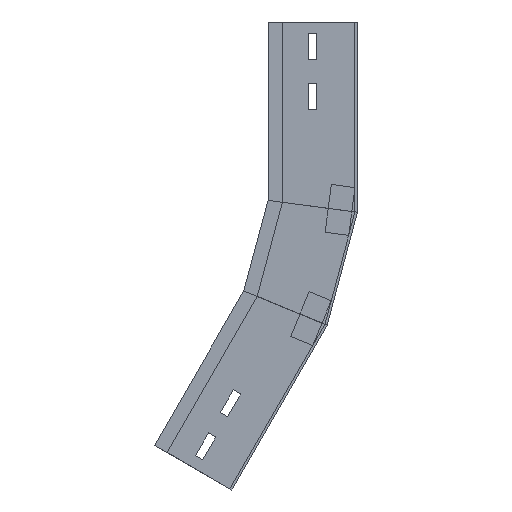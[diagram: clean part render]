
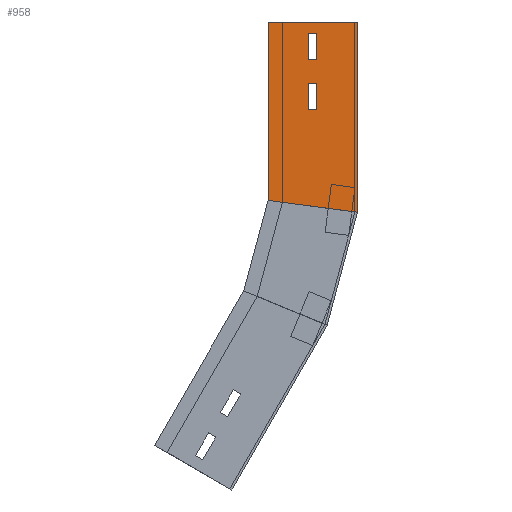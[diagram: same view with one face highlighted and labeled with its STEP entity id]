
A CAD part, left-side view. The second image highlights one B-rep face of the part: STEP entity #958.
In plain terms, the highlighted planar face has unit normal (-1, 0, 0) as drawn and (1, 0, 0) by its records, which use the part's own axes.
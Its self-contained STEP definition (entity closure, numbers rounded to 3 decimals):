
#5 = DIRECTION ( 'NONE',  ( 0., 0.866, 0.5 ) ) ;
#54 = ORIENTED_EDGE ( 'NONE', *, *, #1411, .F. ) ;
#62 = CARTESIAN_POINT ( 'NONE',  ( 0., 124.881, -344.885 ) ) ;
#80 = VERTEX_POINT ( 'NONE', #62 ) ;
#92 = ORIENTED_EDGE ( 'NONE', *, *, #164, .T. ) ;
#93 = VECTOR ( 'NONE', #466, 1000. ) ;
#102 = FACE_BOUND ( 'NONE', #962, .T. ) ;
#111 = ORIENTED_EDGE ( 'NONE', *, *, #1127, .F. ) ;
#127 = VERTEX_POINT ( 'NONE', #648 ) ;
#160 = VERTEX_POINT ( 'NONE', #901 ) ;
#164 = EDGE_CURVE ( 'NONE', #341, #127, #1350, .T. ) ;
#169 = VERTEX_POINT ( 'NONE', #536 ) ;
#183 = EDGE_CURVE ( 'NONE', #370, #80, #637, .T. ) ;
#192 = ORIENTED_EDGE ( 'NONE', *, *, #920, .F. ) ;
#195 = CARTESIAN_POINT ( 'NONE',  ( 0., 124.881, -344.885 ) ) ;
#211 = AXIS2_PLACEMENT_3D ( 'NONE', #1159, #229, #1153 ) ;
#229 = DIRECTION ( 'NONE',  ( -1., 0., 0. ) ) ;
#231 = ORIENTED_EDGE ( 'NONE', *, *, #1262, .F. ) ;
#272 = ORIENTED_EDGE ( 'NONE', *, *, #844, .T. ) ;
#282 = DIRECTION ( 'NONE',  ( 0., -0.866, -0.5 ) ) ;
#341 = VERTEX_POINT ( 'NONE', #473 ) ;
#342 = CARTESIAN_POINT ( 'NONE',  ( 0., 135.881, -363.937 ) ) ;
#356 = VECTOR ( 'NONE', #457, 1000. ) ;
#370 = VERTEX_POINT ( 'NONE', #668 ) ;
#375 = CARTESIAN_POINT ( 'NONE',  ( 0., 115.046, -327.85 ) ) ;
#381 = VECTOR ( 'NONE', #282, 1000. ) ;
#382 = DIRECTION ( 'NONE',  ( 0., 0.866, 0.5 ) ) ;
#411 = EDGE_CURVE ( 'NONE', #1120, #1125, #834, .T. ) ;
#435 = DIRECTION ( 'NONE',  ( 0., -0.866, -0.5 ) ) ;
#442 = LINE ( 'NONE', #1252, #93 ) ;
#455 = VECTOR ( 'NONE', #1206, 1000. ) ;
#457 = DIRECTION ( 'NONE',  ( 0., 0.5, -0.866 ) ) ;
#459 = PLANE ( 'NONE',  #211 ) ;
#464 = CARTESIAN_POINT ( 'NONE',  ( 0., 129.819, -367.437 ) ) ;
#466 = DIRECTION ( 'NONE',  ( 0., 0.5, -0.866 ) ) ;
#473 = CARTESIAN_POINT ( 'NONE',  ( 0., 95.331, -225.702 ) ) ;
#495 = ORIENTED_EDGE ( 'NONE', *, *, #932, .F. ) ;
#531 = LINE ( 'NONE', #195, #587 ) ;
#536 = CARTESIAN_POINT ( 'NONE',  ( 0., 104.046, -308.798 ) ) ;
#551 = VECTOR ( 'NONE', #1111, 1000. ) ;
#587 = VECTOR ( 'NONE', #435, 1000. ) ;
#589 = ORIENTED_EDGE ( 'NONE', *, *, #411, .F. ) ;
#601 = CARTESIAN_POINT ( 'NONE',  ( 0., 25.442, -254.651 ) ) ;
#637 = LINE ( 'NONE', #1339, #768 ) ;
#648 = CARTESIAN_POINT ( 'NONE',  ( 0., 25.442, -254.651 ) ) ;
#659 = CARTESIAN_POINT ( 'NONE',  ( 0., 105.292, -392.955 ) ) ;
#666 = LINE ( 'NONE', #938, #871 ) ;
#668 = CARTESIAN_POINT ( 'NONE',  ( 0., 135.881, -363.937 ) ) ;
#735 = EDGE_CURVE ( 'NONE', #127, #791, #1064, .T. ) ;
#760 = CARTESIAN_POINT ( 'NONE',  ( 0., 115.046, -327.85 ) ) ;
#764 = CARTESIAN_POINT ( 'NONE',  ( 0., 37.296, -249.74 ) ) ;
#768 = VECTOR ( 'NONE', #1102, 1000. ) ;
#791 = VERTEX_POINT ( 'NONE', #659 ) ;
#808 = FACE_BOUND ( 'NONE', #941, .T. ) ;
#812 = VECTOR ( 'NONE', #5, 1000. ) ;
#834 = LINE ( 'NONE', #375, #1384 ) ;
#835 = DIRECTION ( 'NONE',  ( 0., 0.5, -0.866 ) ) ;
#837 = VECTOR ( 'NONE', #988, 1000. ) ;
#844 = EDGE_CURVE ( 'NONE', #791, #1428, #1008, .T. ) ;
#870 = CARTESIAN_POINT ( 'NONE',  ( 0., 104.046, -308.798 ) ) ;
#871 = VECTOR ( 'NONE', #1489, 1000. ) ;
#872 = CARTESIAN_POINT ( 'NONE',  ( 0., 170.244, -355.455 ) ) ;
#894 = CARTESIAN_POINT ( 'NONE',  ( 0., 118.819, -348.385 ) ) ;
#901 = CARTESIAN_POINT ( 'NONE',  ( 0., 129.819, -367.437 ) ) ;
#920 = EDGE_CURVE ( 'NONE', #341, #1428, #442, .T. ) ;
#932 = EDGE_CURVE ( 'NONE', #1125, #169, #666, .T. ) ;
#938 = CARTESIAN_POINT ( 'NONE',  ( 0., 115.046, -327.85 ) ) ;
#941 = EDGE_LOOP ( 'NONE', ( #495, #589, #231, #111 ) ) ;
#958 = ADVANCED_FACE ( 'NONE', ( #102, #808, #1264 ), #459, .F. ) ;
#962 = EDGE_LOOP ( 'NONE', ( #1436, #978, #54, #1331 ) ) ;
#978 = ORIENTED_EDGE ( 'NONE', *, *, #1368, .F. ) ;
#988 = DIRECTION ( 'NONE',  ( 0., 0.5, -0.866 ) ) ;
#997 = ORIENTED_EDGE ( 'NONE', *, *, #735, .T. ) ;
#1008 = LINE ( 'NONE', #1019, #455 ) ;
#1016 = EDGE_LOOP ( 'NONE', ( #92, #997, #272, #192 ) ) ;
#1019 = CARTESIAN_POINT ( 'NONE',  ( 0., 105.292, -392.955 ) ) ;
#1039 = CARTESIAN_POINT ( 'NONE',  ( 0., 108.984, -331.35 ) ) ;
#1060 = CARTESIAN_POINT ( 'NONE',  ( 0., 97.984, -312.298 ) ) ;
#1064 = LINE ( 'NONE', #601, #1418 ) ;
#1102 = DIRECTION ( 'NONE',  ( 0., -0.5, 0.866 ) ) ;
#1111 = DIRECTION ( 'NONE',  ( 0., -0.924, -0.383 ) ) ;
#1120 = VERTEX_POINT ( 'NONE', #1437 ) ;
#1125 = VERTEX_POINT ( 'NONE', #760 ) ;
#1127 = EDGE_CURVE ( 'NONE', #169, #1300, #1456, .T. ) ;
#1149 = LINE ( 'NONE', #464, #837 ) ;
#1153 = DIRECTION ( 'NONE',  ( 0., 0., 1. ) ) ;
#1159 = CARTESIAN_POINT ( 'NONE',  ( 0., 25.442, -254.651 ) ) ;
#1184 = VERTEX_POINT ( 'NONE', #894 ) ;
#1206 = DIRECTION ( 'NONE',  ( 0., 0.866, 0.5 ) ) ;
#1251 = LINE ( 'NONE', #1039, #356 ) ;
#1252 = CARTESIAN_POINT ( 'NONE',  ( 0., 90.394, -217.151 ) ) ;
#1262 = EDGE_CURVE ( 'NONE', #1300, #1120, #1251, .T. ) ;
#1264 = FACE_OUTER_BOUND ( 'NONE', #1016, .T. ) ;
#1300 = VERTEX_POINT ( 'NONE', #1060 ) ;
#1331 = ORIENTED_EDGE ( 'NONE', *, *, #1463, .F. ) ;
#1339 = CARTESIAN_POINT ( 'NONE',  ( 0., 135.881, -363.937 ) ) ;
#1350 = LINE ( 'NONE', #764, #551 ) ;
#1368 = EDGE_CURVE ( 'NONE', #160, #370, #1382, .T. ) ;
#1382 = LINE ( 'NONE', #342, #812 ) ;
#1384 = VECTOR ( 'NONE', #382, 1000. ) ;
#1411 = EDGE_CURVE ( 'NONE', #1184, #160, #1149, .T. ) ;
#1418 = VECTOR ( 'NONE', #835, 1000. ) ;
#1428 = VERTEX_POINT ( 'NONE', #872 ) ;
#1436 = ORIENTED_EDGE ( 'NONE', *, *, #183, .F. ) ;
#1437 = CARTESIAN_POINT ( 'NONE',  ( 0., 108.984, -331.35 ) ) ;
#1456 = LINE ( 'NONE', #870, #381 ) ;
#1463 = EDGE_CURVE ( 'NONE', #80, #1184, #531, .T. ) ;
#1489 = DIRECTION ( 'NONE',  ( 0., -0.5, 0.866 ) ) ;
